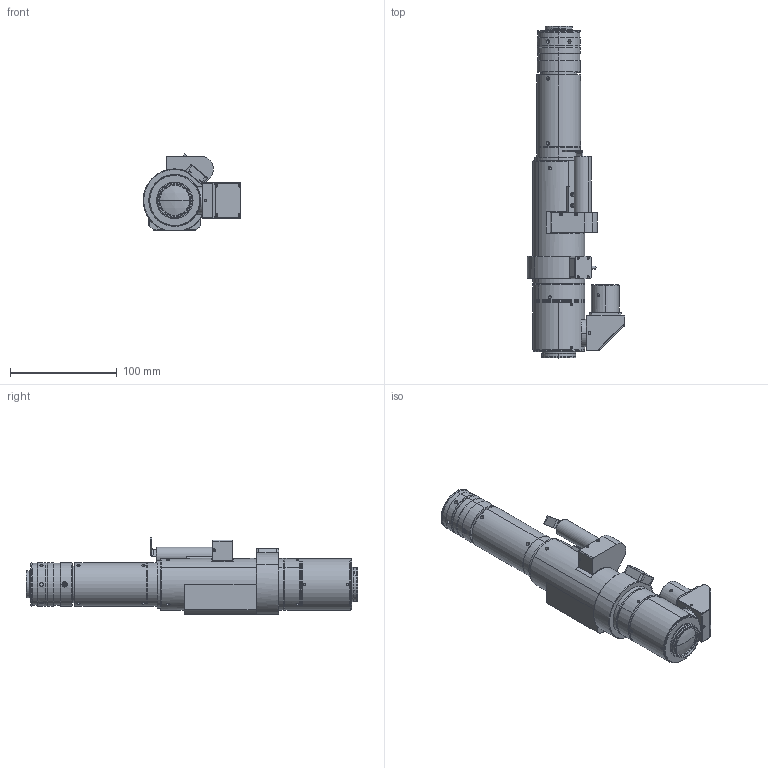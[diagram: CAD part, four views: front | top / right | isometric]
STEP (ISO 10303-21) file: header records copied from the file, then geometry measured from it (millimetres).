
FILE_DESCRIPTION (( 'STEP AP203' ), '1' );
FILE_NAME ('RK-PZ16CL-S.STEP', '2024-03-15T00:37:41', ( 'Windows 蚚誧' ), ( 'Organization' ), 'SwSTEP 2.0', 'SolidWorks 2018', '' );
FILE_SCHEMA (( 'CONFIG_CONTROL_DESIGN' ));
Length unit declared in the file: millimetre
Products named in the file (1): RK-PZ16CL-S
Bounding box: 91.25 x 310.34 x 71.22 mm (x, y, z)
Volume: 282733.5 mm3; surface area: 161779.5 mm2
Topology: 26 solids, 26 shells, 1437 faces, 3369 edges, 2060 vertices
Faces by surface type: cylinder 522, plane 452, cone 451, bspline 6, sphere 6
Entity records: 46818 total; most frequent: CARTESIAN_POINT 13358, DIRECTION 7242, ORIENTED_EDGE 6602, EDGE_CURVE 3301, AXIS2_PLACEMENT_3D 2790, VERTEX_POINT 2060, EDGE_LOOP 1761, VECTOR 1662
